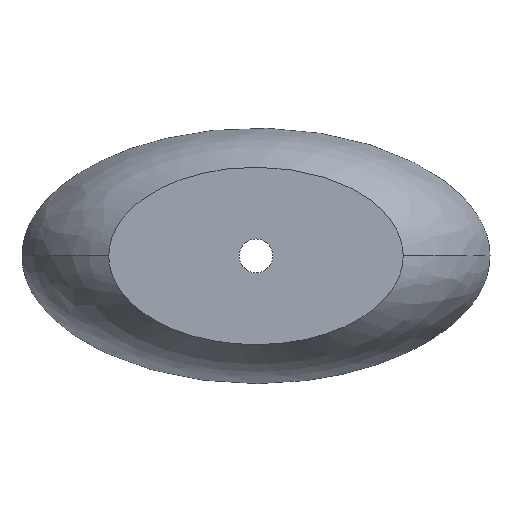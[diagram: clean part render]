
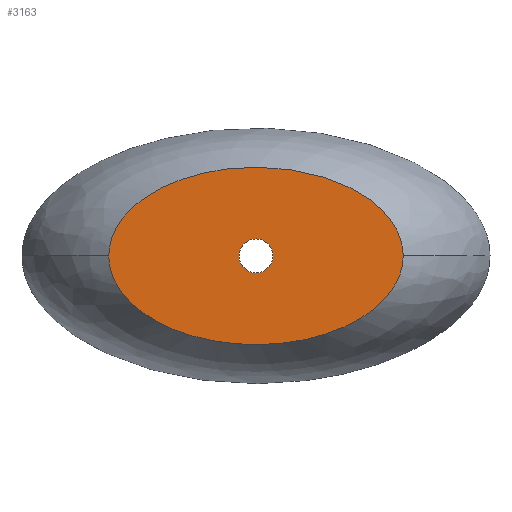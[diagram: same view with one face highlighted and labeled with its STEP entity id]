
A CAD part, front view. The second image highlights one B-rep face of the part: STEP entity #3163.
In plain terms, the highlighted planar face has unit normal (0, -1, 0).
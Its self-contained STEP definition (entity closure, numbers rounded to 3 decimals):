
#156 = CIRCLE ( 'NONE', #1151, 22.5 ) ;
#157 = VERTEX_POINT ( 'NONE', #4095 ) ;
#219 = CARTESIAN_POINT ( 'NONE',  ( 0., -160., 0. ) ) ;
#253 = AXIS2_PLACEMENT_3D ( 'NONE', #1156, #1566, #4364 ) ;
#408 = CARTESIAN_POINT ( 'NONE',  ( 0., -160., 22.5 ) ) ;
#601 = CARTESIAN_POINT ( 'NONE',  ( 195., -160., 0. ) ) ;
#619 = DIRECTION ( 'NONE',  ( 0., 0., 1. ) ) ;
#667 = ORIENTED_EDGE ( 'NONE', *, *, #1524, .F. ) ;
#774 = CARTESIAN_POINT ( 'NONE',  ( -195., -160., 68.83 ) ) ;
#822 = FACE_BOUND ( 'NONE', #2352, .T. ) ;
#827 = ORIENTED_EDGE ( 'NONE', *, *, #1899, .T. ) ;
#983 = EDGE_LOOP ( 'NONE', ( #667, #4982 ) ) ;
#1007 = CARTESIAN_POINT ( 'NONE',  ( -195., -160., -235. ) ) ;
#1151 = AXIS2_PLACEMENT_3D ( 'NONE', #219, #3012, #619 ) ;
#1156 = CARTESIAN_POINT ( 'NONE',  ( 0., -160., 0. ) ) ;
#1168 = PLANE ( 'NONE',  #253 ) ;
#1176 = CARTESIAN_POINT ( 'NONE',  ( 0., -160., 117.5 ) ) ;
#1264 = DIRECTION ( 'NONE',  ( 0., 1., 0. ) ) ;
#1524 = EDGE_CURVE ( 'NONE', #157, #1706, #4101, .T. ) ;
#1566 = DIRECTION ( 'NONE',  ( 0., 1., 0. ) ) ;
#1574 = CARTESIAN_POINT ( 'NONE',  ( 195., -160., 68.83 ) ) ;
#1706 = VERTEX_POINT ( 'NONE', #601 ) ;
#1790 = EDGE_CURVE ( 'NONE', #1706, #157, #2262, .T. ) ;
#1899 = EDGE_CURVE ( 'NONE', #2770, #2162, #156, .T. ) ;
#2162 = VERTEX_POINT ( 'NONE', #2995 ) ;
#2226 = ORIENTED_EDGE ( 'NONE', *, *, #4805, .T. ) ;
#2262 =( BOUNDED_CURVE ( )  B_SPLINE_CURVE ( 3, ( #4484, #3395, #1007, #3799 ),
 .UNSPECIFIED., .F., .T. ) 
 B_SPLINE_CURVE_WITH_KNOTS ( ( 4, 4 ),
 ( 3.142, 6.283 ),
 .UNSPECIFIED. ) 
 CURVE ( )  GEOMETRIC_REPRESENTATION_ITEM ( )  RATIONAL_B_SPLINE_CURVE ( ( 1., 0.333, 0.333, 1. ) ) 
 REPRESENTATION_ITEM ( '' )  );
#2352 = EDGE_LOOP ( 'NONE', ( #827, #2226 ) ) ;
#2377 = AXIS2_PLACEMENT_3D ( 'NONE', #3654, #1264, #4058 ) ;
#2770 = VERTEX_POINT ( 'NONE', #408 ) ;
#2995 = CARTESIAN_POINT ( 'NONE',  ( 0., -160., -22.5 ) ) ;
#3012 = DIRECTION ( 'NONE',  ( 0., 1., 0. ) ) ;
#3107 = FACE_OUTER_BOUND ( 'NONE', #983, .T. ) ;
#3163 = ADVANCED_FACE ( 'NONE', ( #822, #3107 ), #1168, .F. ) ;
#3168 = CARTESIAN_POINT ( 'NONE',  ( -195., -160., 0. ) ) ;
#3395 = CARTESIAN_POINT ( 'NONE',  ( 195., -160., -235. ) ) ;
#3566 = CARTESIAN_POINT ( 'NONE',  ( -114.228, -160., 117.5 ) ) ;
#3654 = CARTESIAN_POINT ( 'NONE',  ( 0., -160., 0. ) ) ;
#3799 = CARTESIAN_POINT ( 'NONE',  ( -195., -160., 0. ) ) ;
#3966 = CARTESIAN_POINT ( 'NONE',  ( 114.228, -160., 117.5 ) ) ;
#4058 = DIRECTION ( 'NONE',  ( 0., 0., 1. ) ) ;
#4095 = CARTESIAN_POINT ( 'NONE',  ( -195., -160., 0. ) ) ;
#4101 =( BOUNDED_CURVE ( )  B_SPLINE_CURVE ( 3, ( #3168, #774, #3566, #1176, #3966, #1574, #4372 ),
 .UNSPECIFIED., .F., .F. ) 
 B_SPLINE_CURVE_WITH_KNOTS ( ( 4, 3, 4 ),
 ( 6.283, 7.854, 9.425 ),
 .UNSPECIFIED. ) 
 CURVE ( )  GEOMETRIC_REPRESENTATION_ITEM ( )  RATIONAL_B_SPLINE_CURVE ( ( 1., 0.805, 0.805, 1., 0.805, 0.805, 1. ) ) 
 REPRESENTATION_ITEM ( '' )  );
#4364 = DIRECTION ( 'NONE',  ( 0., 0., 1. ) ) ;
#4372 = CARTESIAN_POINT ( 'NONE',  ( 195., -160., 0. ) ) ;
#4456 = CIRCLE ( 'NONE', #2377, 22.5 ) ;
#4484 = CARTESIAN_POINT ( 'NONE',  ( 195., -160., 0. ) ) ;
#4805 = EDGE_CURVE ( 'NONE', #2162, #2770, #4456, .T. ) ;
#4982 = ORIENTED_EDGE ( 'NONE', *, *, #1790, .F. ) ;
